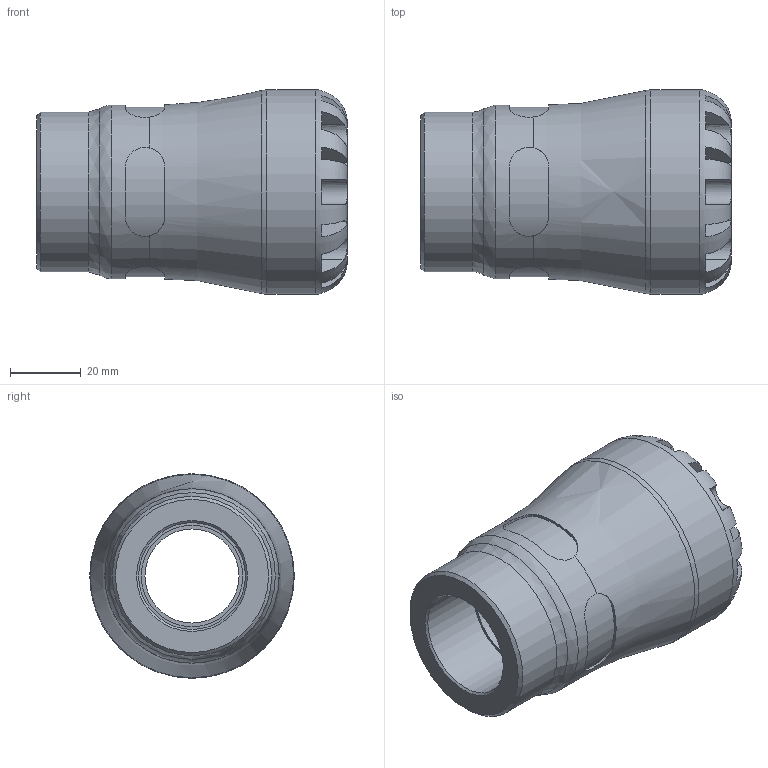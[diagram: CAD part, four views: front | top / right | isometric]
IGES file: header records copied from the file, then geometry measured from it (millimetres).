
Global section: file name: 107300032010_197300032010.ipt; native system: Autodesk Inventor 2015; preprocessor: unknown; author: KIM; date: 20170122.113606; units: millimetre
Bounding box: 88 x 58 x 58 mm (x, y, z)
Volume: 113671.2 mm3; surface area: 26991.1 mm2
Topology: 1 solids, 1 shells, 104 faces, 279 edges, 180 vertices
Faces by surface type: plane 61, revolution 27, cylinder 15, cone 1
Full cylindrical faces by diameter (mm): 45.24 x1, 49.3 x1, 58 x1
